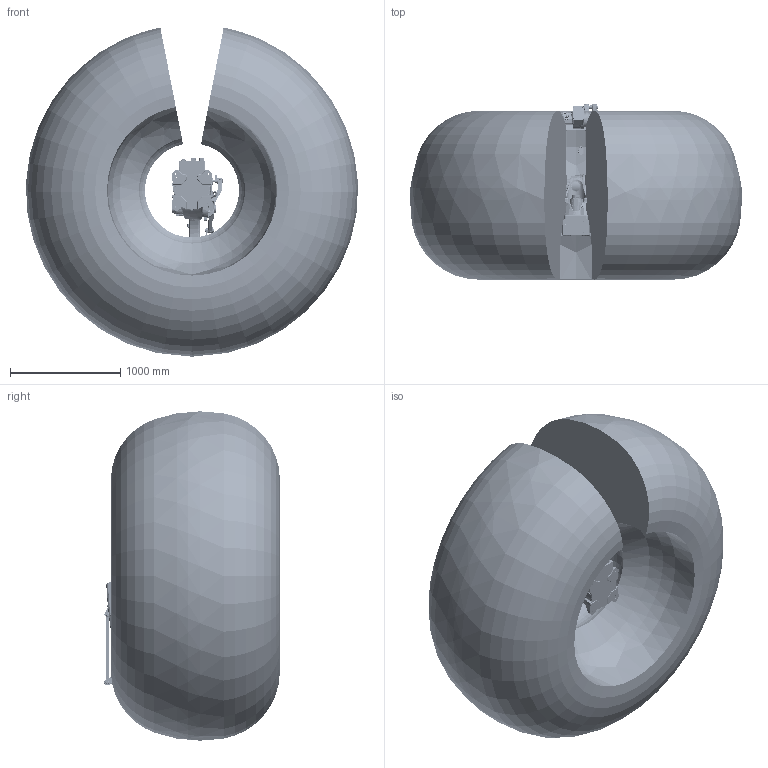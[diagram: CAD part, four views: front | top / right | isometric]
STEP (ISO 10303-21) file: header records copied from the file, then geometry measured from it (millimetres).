
FILE_DESCRIPTION((''),'2;1');
FILE_NAME('RB15-1-B_ASM','2024-07-02T16:54:08',('Administrator'),(''),'CREO PARAMETRIC BY PTC INC, 2018260','CREO PARAMETRIC BY PTC INC, 2018260','');
FILE_SCHEMA(('CONFIG_CONTROL_DESIGN','SHAPE_APPEARANCE_LAYERS_GROUPS'));
Length unit declared in the file: millimetre
Products named in the file (12): RB15-1-B_BASE; RB15-1-B_JOINT1; RB15-1-B_JOINT2; RB15-1-B_JOINT3; RB15-1-B_WRIST; RB15-1-B_JOINT4; RB15-1-B_ANGLE-BRACKET; RB15-1-B_VERTICAL-ROD; RB15-1-B_HORIZONTAL-ROD; RB15-1-B_RANGE; RB15-1-B_RANGE2; RB15-1-B_ASM
Assembly tree (11 placements, depth 2):
  RB15-1-B_ASM
    RB15-1-B_BASE
    RB15-1-B_JOINT1
    RB15-1-B_JOINT2
    RB15-1-B_JOINT3
    RB15-1-B_WRIST
    RB15-1-B_JOINT4
    RB15-1-B_ANGLE-BRACKET
    RB15-1-B_VERTICAL-ROD
    RB15-1-B_HORIZONTAL-ROD
    RB15-1-B_RANGE
    RB15-1-B_RANGE2
Bounding box: 3016.41 x 1597.19 x 2992.26 mm (x, y, z)
Volume: 7256053392.7 mm3; surface area: 32561548.4 mm2
Topology: 11 solids, 21 shells, 8742 faces, 22317 edges, 13674 vertices
Faces by surface type: cylinder 3117, plane 2400, bspline 1326, torus 1286, cone 356, sphere 249, extrusion 8
Entity records: 354287 total; most frequent: CARTESIAN_POINT 128021, ORIENTED_EDGE 44200, DIRECTION 41895, EDGE_CURVE 22100, AXIS2_PLACEMENT_3D 16614, VERTEX_POINT 13674, CIRCLE 9180, EDGE_LOOP 9150
